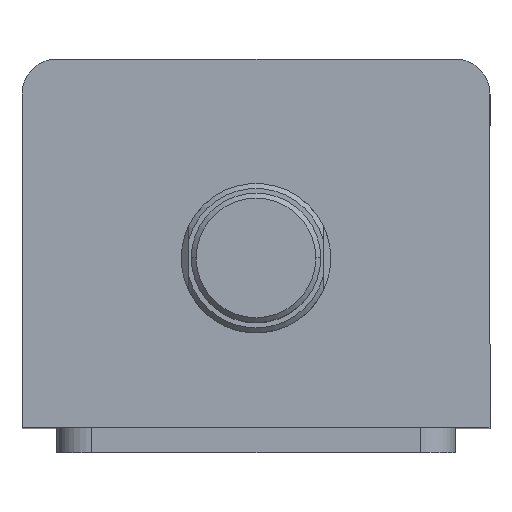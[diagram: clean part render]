
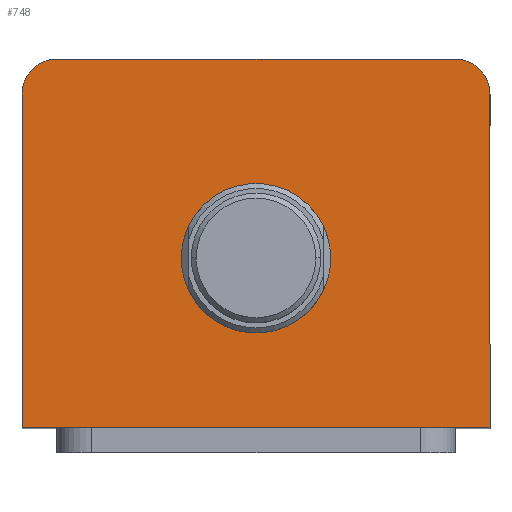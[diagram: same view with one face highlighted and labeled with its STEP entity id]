
A CAD part, top view. The second image highlights one B-rep face of the part: STEP entity #748.
In plain terms, the highlighted planar face has unit normal (0, 0, 1).
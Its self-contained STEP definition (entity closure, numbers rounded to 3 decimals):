
#6 = AXIS2_PLACEMENT_3D ( 'NONE', #1193, #1192, #1191 ) ;
#193 = EDGE_LOOP ( 'NONE', ( #2884, #2883 ) ) ;
#230 = EDGE_LOOP ( 'NONE', ( #2882, #2881, #2880, #2879, #2878, #2877 ) ) ;
#323 = VERTEX_POINT ( 'NONE', #1000 ) ;
#325 = VERTEX_POINT ( 'NONE', #996 ) ;
#371 = VERTEX_POINT ( 'NONE', #847 ) ;
#374 = VERTEX_POINT ( 'NONE', #870 ) ;
#375 = VERTEX_POINT ( 'NONE', #862 ) ;
#383 = VERTEX_POINT ( 'NONE', #830 ) ;
#385 = VERTEX_POINT ( 'NONE', #827 ) ;
#418 = EDGE_CURVE ( 'NONE', #325, #323, #1730, .T. ) ;
#703 = DIRECTION ( 'NONE',  ( 0., 0., 1. ) ) ;
#719 = DIRECTION ( 'NONE',  ( 1., 0., 0. ) ) ;
#721 = CARTESIAN_POINT ( 'NONE',  ( 0., -3., 150. ) ) ;
#748 = ADVANCED_FACE ( 'NONE', ( #1789, #1794 ), #1052, .T. ) ;
#827 = CARTESIAN_POINT ( 'NONE',  ( 47., 30., 150. ) ) ;
#830 = CARTESIAN_POINT ( 'NONE',  ( -47., 30., 150. ) ) ;
#847 = CARTESIAN_POINT ( 'NONE',  ( 47., -37., 150. ) ) ;
#862 = CARTESIAN_POINT ( 'NONE',  ( -40., 37., 150. ) ) ;
#870 = CARTESIAN_POINT ( 'NONE',  ( 40., 37., 150. ) ) ;
#996 = CARTESIAN_POINT ( 'NONE',  ( -15., -3., 150. ) ) ;
#1000 = CARTESIAN_POINT ( 'NONE',  ( 15., -3., 150. ) ) ;
#1043 = DIRECTION ( 'NONE',  ( 1., 0., 0. ) ) ;
#1045 = DIRECTION ( 'NONE',  ( 0., 0., 1. ) ) ;
#1052 = PLANE ( 'NONE',  #1344 ) ;
#1053 = CARTESIAN_POINT ( 'NONE',  ( 0., 0., 150. ) ) ;
#1191 = DIRECTION ( 'NONE',  ( 1., 0., 0. ) ) ;
#1192 = DIRECTION ( 'NONE',  ( 0., 0., 1. ) ) ;
#1193 = CARTESIAN_POINT ( 'NONE',  ( 0., -3., 150. ) ) ;
#1282 = AXIS2_PLACEMENT_3D ( 'NONE', #2667, #2666, #2664 ) ;
#1330 = AXIS2_PLACEMENT_3D ( 'NONE', #721, #703, #719 ) ;
#1337 = AXIS2_PLACEMENT_3D ( 'NONE', #2621, #2620, #2618 ) ;
#1344 = AXIS2_PLACEMENT_3D ( 'NONE', #1053, #1045, #1043 ) ;
#1430 = EDGE_CURVE ( 'NONE', #1549, #371, #2326, .T. ) ;
#1473 = EDGE_CURVE ( 'NONE', #374, #375, #2408, .T. ) ;
#1491 = EDGE_CURVE ( 'NONE', #371, #385, #2443, .T. ) ;
#1495 = EDGE_CURVE ( 'NONE', #385, #374, #2447, .T. ) ;
#1503 = EDGE_CURVE ( 'NONE', #375, #383, #2453, .T. ) ;
#1512 = EDGE_CURVE ( 'NONE', #383, #1549, #2469, .T. ) ;
#1525 = EDGE_CURVE ( 'NONE', #323, #325, #2495, .T. ) ;
#1549 = VERTEX_POINT ( 'NONE', #2696 ) ;
#1730 = CIRCLE ( 'NONE', #6, 15. ) ;
#1789 = FACE_BOUND ( 'NONE', #193, .T. ) ;
#1794 = FACE_OUTER_BOUND ( 'NONE', #230, .T. ) ;
#2326 = LINE ( 'NONE', #2691, #2339 ) ;
#2339 = VECTOR ( 'NONE', #2681, 1000. ) ;
#2408 = LINE ( 'NONE', #2739, #2411 ) ;
#2411 = VECTOR ( 'NONE', #2738, 1000. ) ;
#2443 = LINE ( 'NONE', #2685, #2446 ) ;
#2446 = VECTOR ( 'NONE', #2684, 1000. ) ;
#2447 = CIRCLE ( 'NONE', #1282, 7. ) ;
#2453 = CIRCLE ( 'NONE', #1337, 7. ) ;
#2469 = LINE ( 'NONE', #2582, #2472 ) ;
#2472 = VECTOR ( 'NONE', #2581, 1000. ) ;
#2495 = CIRCLE ( 'NONE', #1330, 15. ) ;
#2581 = DIRECTION ( 'NONE',  ( 0., -1., 0. ) ) ;
#2582 = CARTESIAN_POINT ( 'NONE',  ( -47., 37., 150. ) ) ;
#2618 = DIRECTION ( 'NONE',  ( 1., 0., 0. ) ) ;
#2620 = DIRECTION ( 'NONE',  ( 0., 0., 1. ) ) ;
#2621 = CARTESIAN_POINT ( 'NONE',  ( -40., 30., 150. ) ) ;
#2664 = DIRECTION ( 'NONE',  ( 1., 0., 0. ) ) ;
#2666 = DIRECTION ( 'NONE',  ( 0., 0., 1. ) ) ;
#2667 = CARTESIAN_POINT ( 'NONE',  ( 40., 30., 150. ) ) ;
#2681 = DIRECTION ( 'NONE',  ( 1., 0., 0. ) ) ;
#2684 = DIRECTION ( 'NONE',  ( 0., 1., 0. ) ) ;
#2685 = CARTESIAN_POINT ( 'NONE',  ( 47., 37., 150. ) ) ;
#2691 = CARTESIAN_POINT ( 'NONE',  ( -47., -37., 150. ) ) ;
#2696 = CARTESIAN_POINT ( 'NONE',  ( -47., -37., 150. ) ) ;
#2738 = DIRECTION ( 'NONE',  ( -1., 0., 0. ) ) ;
#2739 = CARTESIAN_POINT ( 'NONE',  ( -47., 37., 150. ) ) ;
#2877 = ORIENTED_EDGE ( 'NONE', *, *, #1495, .T. ) ;
#2878 = ORIENTED_EDGE ( 'NONE', *, *, #1491, .T. ) ;
#2879 = ORIENTED_EDGE ( 'NONE', *, *, #1430, .T. ) ;
#2880 = ORIENTED_EDGE ( 'NONE', *, *, #1512, .T. ) ;
#2881 = ORIENTED_EDGE ( 'NONE', *, *, #1503, .T. ) ;
#2882 = ORIENTED_EDGE ( 'NONE', *, *, #1473, .T. ) ;
#2883 = ORIENTED_EDGE ( 'NONE', *, *, #418, .F. ) ;
#2884 = ORIENTED_EDGE ( 'NONE', *, *, #1525, .F. ) ;
